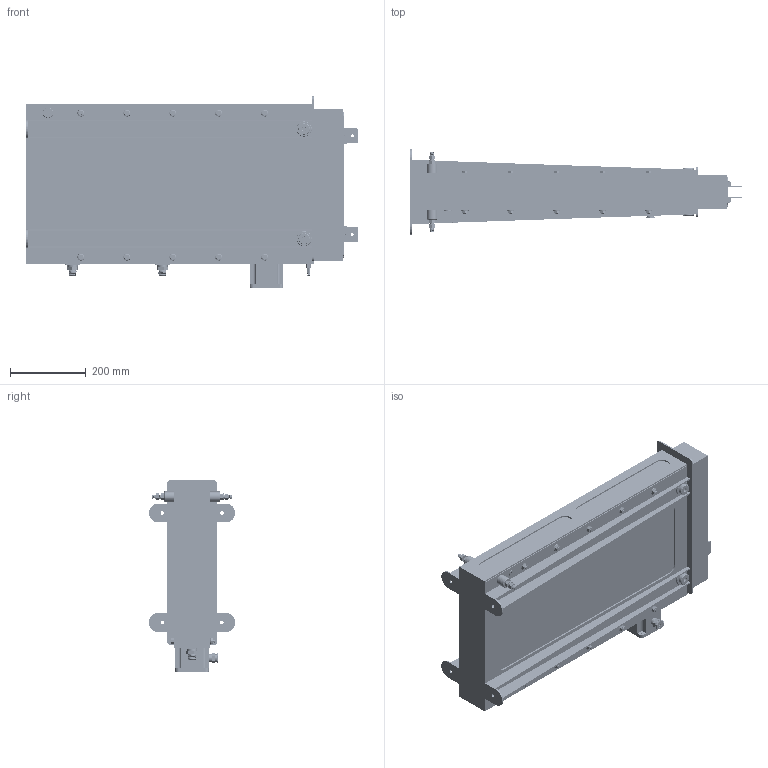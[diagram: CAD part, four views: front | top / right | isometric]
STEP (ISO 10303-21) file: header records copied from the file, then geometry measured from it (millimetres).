
FILE_DESCRIPTION (( 'STEP AP203' ), '1' );
FILE_NAME ('ﾐﾑﾌﾊ-1 ﾀ IP21.STEP', '2024-04-04T22:24:10', ( '' ), ( '' ), 'SwSTEP 2.0', 'SolidWorks 2020', '' );
FILE_SCHEMA (( 'CONFIG_CONTROL_DESIGN' ));
Products named in the file (1): ﾐﾑﾌﾊ-1 ﾀ IP21
Bounding box: 876.21 x 227.74 x 506.5 mm (x, y, z)
Volume: 31911573.9 mm3; surface area: 2595890.4 mm2
Topology: 114 solids, 151 shells, 5681 faces, 14333 edges, 9171 vertices
Faces by surface type: cylinder 2486, plane 2268, torus 390, bspline 250, cone 247, sphere 40
Entity records: 288005 total; most frequent: CARTESIAN_POINT 159146, ORIENTED_EDGE 28490, DIRECTION 25345, EDGE_CURVE 14245, VERTEX_POINT 9171, AXIS2_PLACEMENT_3D 9131, LINE 7083, VECTOR 7083
